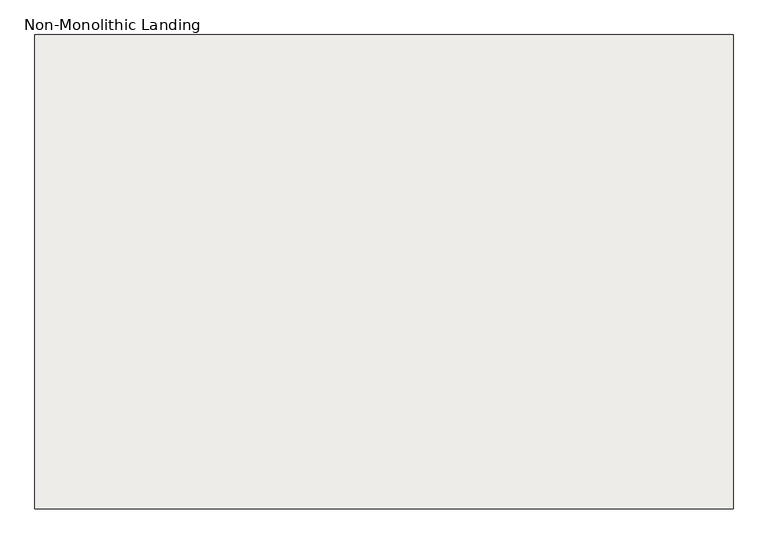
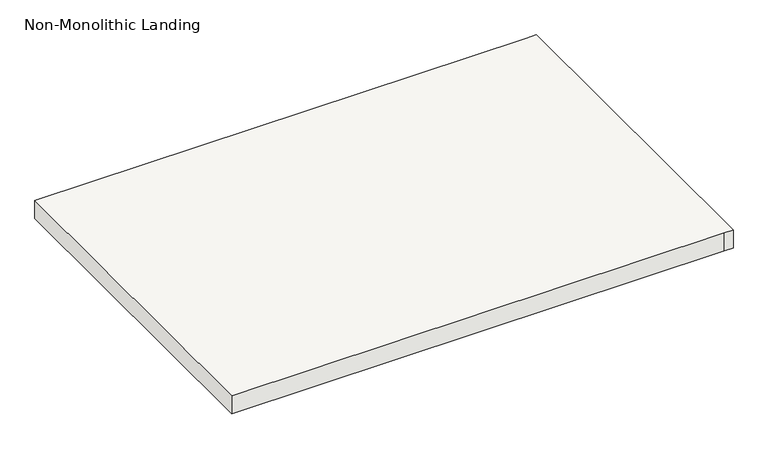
"""IFC4 building model written with IfcOpenShell, lengths in millimetres: slab geometry, Non-Monolithic Landing."""

from ifc_helpers import new_model, si_unit, frame, origin, place, context, project, spatial, polyline, outline, extrude, source, transform, mapped, element, save


def non_monolithic_landing_f9fca083(model_context):
    return source(origin(), model_context, "Body", "SweptSolid", [
        extrude(outline(polyline([(-32583.6453515, 7552.722839), (-31262.8453515, 7552.722839), (-31237.4453515, 7552.722839), (-31237.4453515, 6638.322839), (-31262.8453515, 6638.322839), (-32583.6453515, 6638.322839), (-32583.6453515, 7552.722839)])), frame((0.0, 0.0, 2126.3428571), z_axis=(0.0, 0.0, 1.0), x_axis=(1.0, 0.0, 0.0)), (0.0, 0.0, 1.0), 50.8),
    ])


if __name__ == "__main__":
    model = new_model("IFC4")
    model_context = context("Model", 3, world=origin())
    ifc_project = project(units=[si_unit("LENGTHUNIT", "METRE", prefix="MILLI")], contexts=[model_context])
    site = spatial("IfcSite", under=ifc_project)
    building = spatial("IfcBuilding", under=site)
    placement = place(None, origin())
    non_monolithic_landing_shape = non_monolithic_landing_f9fca083(model_context)
    element("IfcSlab", 1, ObjectType="Non-Monolithic Landing", at=placement, inside=building, context=model_context, shape_type="MappedRepresentation", body=[
        mapped(non_monolithic_landing_shape, transform((0.0, 0.0, 0.0), x_axis=(1.0, 0.0, 0.0), y_axis=(0.0, 1.0, 0.0), z_axis=(0.0, 0.0, 1.0))),
    ])
    save(model, "model.ifc")
